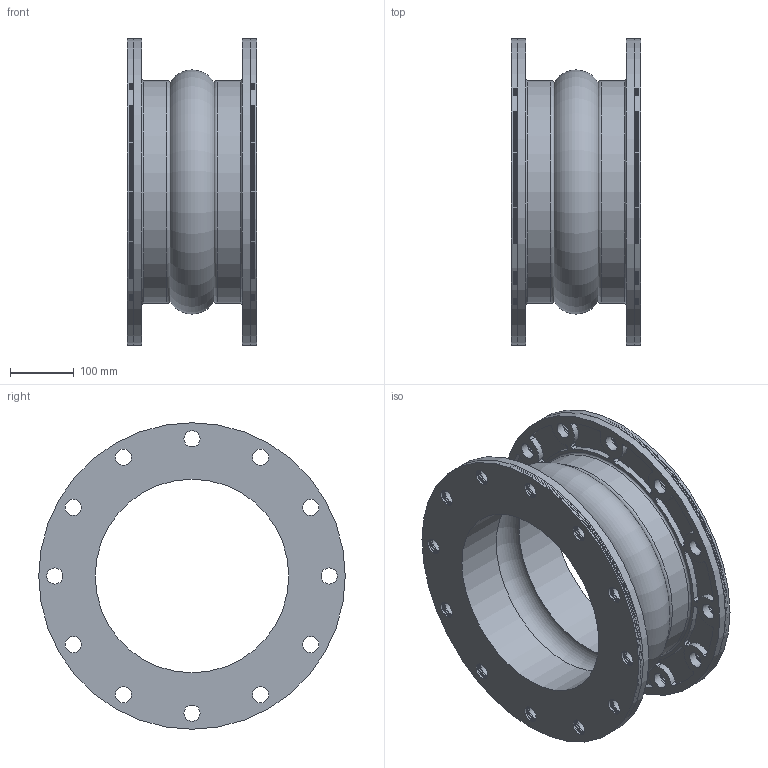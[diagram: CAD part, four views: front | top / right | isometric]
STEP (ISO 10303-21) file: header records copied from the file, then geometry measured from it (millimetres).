
FILE_DESCRIPTION((''),'2;1');
FILE_NAME('N:\StockJoints-ADSK, IGES, STEP, PNG\STEP\451 12x8.stp','2013-05-23T11:31:47',('mquog'),(''),'Autodesk Inventor 2011','Autodesk Inventor 2011','');
FILE_SCHEMA(('AUTOMOTIVE_DESIGN { 1 0 10303 214 1 1 1 1 }'));
Length unit declared in the file: inch
Products named in the file (3): 451 12x8; Style451 12x8; 12DI450BUR150
Assembly tree (3 placements, depth 2):
  451 12x8
    Style451 12x8
    12DI450BUR150  x2
Bounding box: 203.2 x 482.6 x 482.6 mm (x, y, z)
Volume: 7407097.8 mm3; surface area: 6764598.6 mm2
Topology: 14 solids, 14 shells, 646 faces, 1688 edges, 1106 vertices
Faces by surface type: cylinder 486, plane 110, torus 48, cone 2
Full cylindrical faces by diameter (mm): 25.4 x192, 304.8 x2, 311.15 x4, 317.5 x8, 319.532 x4, 321.564 x4, 323.596 x4, 325.628 x4, 328.803 x2, 331.788 x2, 336.55 x2, 479.425 x14, 482.6 x4
Entity records: 14153 total; most frequent: DIRECTION 2613, CARTESIAN_POINT 2186, ORIENTED_EDGE 1852, AXIS2_PLACEMENT_3D 1210, EDGE_LOOP 1156, EDGE_CURVE 926, VERTEX_POINT 782, CIRCLE 734
